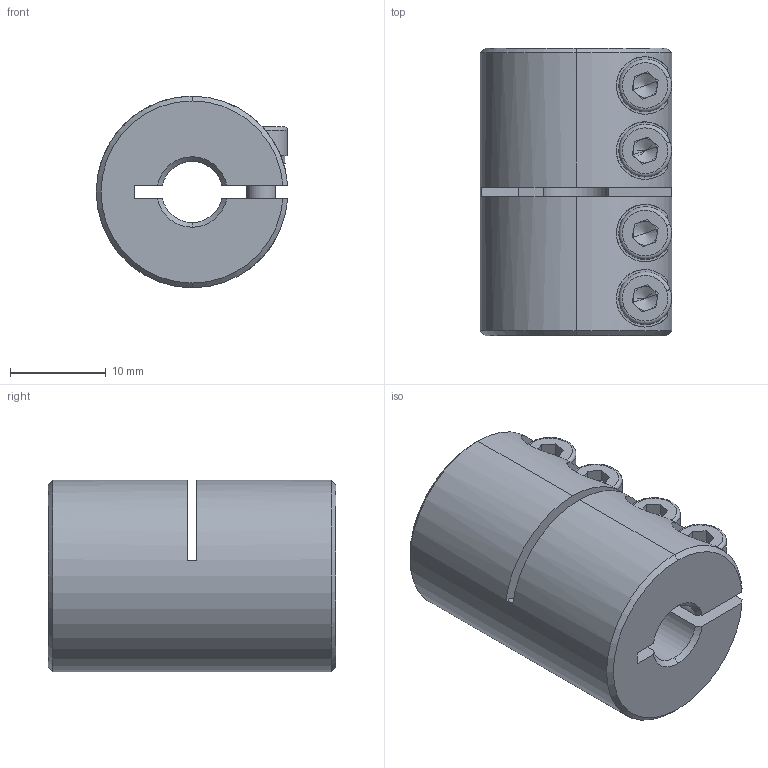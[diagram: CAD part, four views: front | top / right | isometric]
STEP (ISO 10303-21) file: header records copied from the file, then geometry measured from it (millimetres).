
FILE_DESCRIPTION (( 'STEP AP203' ), '1' );
FILE_NAME ('LL-B-D20L30-6.35-7.STEP', '2021-11-05T03:14:31', ( '' ), ( '' ), 'SwSTEP 2.0', 'SolidWorks 2018', '' );
FILE_SCHEMA (( 'CONFIG_CONTROL_DESIGN' ));
Length unit declared in the file: millimetre
Products named in the file (1): LL-B-D20L30-6.35-7
Bounding box: 19.98 x 30 x 20 mm (x, y, z)
Volume: 7695.7 mm3; surface area: 4541 mm2
Topology: 1 solids, 1 shells, 178 faces, 459 edges, 287 vertices
Faces by surface type: plane 89, cylinder 61, cone 20, torus 8
Entity records: 5821 total; most frequent: CARTESIAN_POINT 1349, DIRECTION 958, ORIENTED_EDGE 902, EDGE_CURVE 451, AXIS2_PLACEMENT_3D 368, VERTEX_POINT 287, VECTOR 222, LINE 222
